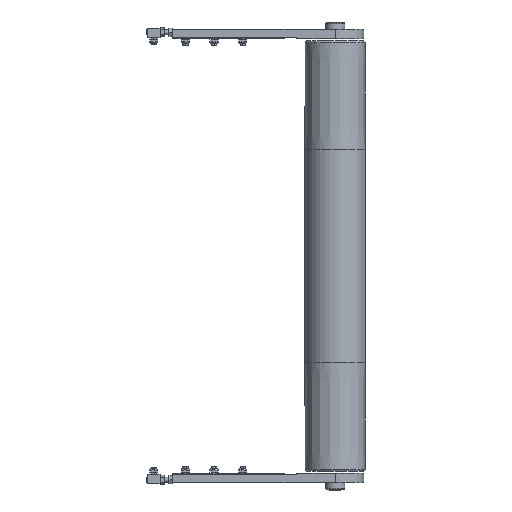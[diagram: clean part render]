
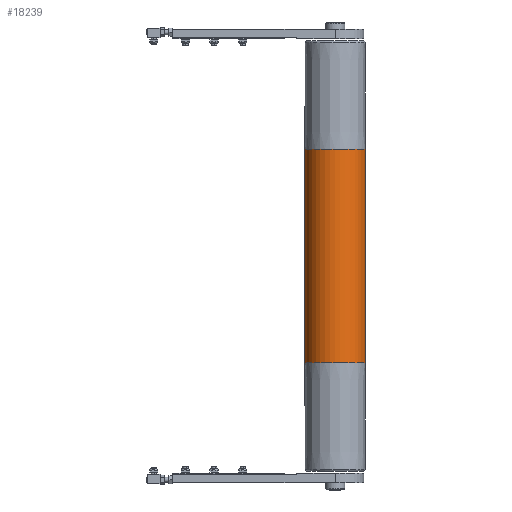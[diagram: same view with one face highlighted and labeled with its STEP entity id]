
A CAD part, front view. The second image highlights one B-rep face of the part: STEP entity #18239.
In plain terms, the highlighted cylindrical face has radius 47.5 mm (diameter 95 mm), a partial arc.
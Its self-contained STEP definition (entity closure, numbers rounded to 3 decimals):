
#3596 = DIRECTION ( 'NONE',  ( 1., 0., 0. ) ) ;
#3834 = CARTESIAN_POINT ( 'NONE',  ( -47.5, 0., 167.5 ) ) ;
#4224 = FACE_OUTER_BOUND ( 'NONE', #13120, .T. ) ;
#4438 = CARTESIAN_POINT ( 'NONE',  ( 0., 0., 167.5 ) ) ;
#5146 = DIRECTION ( 'NONE',  ( 0., 0., -1. ) ) ;
#5971 = EDGE_CURVE ( 'NONE', #16795, #19786, #11069, .T. ) ;
#6205 = DIRECTION ( 'NONE',  ( 1., 0., 0. ) ) ;
#6489 = AXIS2_PLACEMENT_3D ( 'NONE', #19792, #9107, #14401 ) ;
#7210 = EDGE_CURVE ( 'NONE', #11387, #16795, #16120, .T. ) ;
#7416 = CARTESIAN_POINT ( 'NONE',  ( 47.5, 0., -167.5 ) ) ;
#7438 = DIRECTION ( 'NONE',  ( 0., 0., -1. ) ) ;
#7811 = CYLINDRICAL_SURFACE ( 'NONE', #6489, 47.5 ) ;
#9107 = DIRECTION ( 'NONE',  ( 0., 0., -1. ) ) ;
#10043 = CARTESIAN_POINT ( 'NONE',  ( 47.5, 0., 167.5 ) ) ;
#11069 = LINE ( 'NONE', #18126, #15272 ) ;
#11240 = ORIENTED_EDGE ( 'NONE', *, *, #7210, .F. ) ;
#11311 = EDGE_CURVE ( 'NONE', #14920, #19786, #13703, .T. ) ;
#11387 = VERTEX_POINT ( 'NONE', #3834 ) ;
#11603 = AXIS2_PLACEMENT_3D ( 'NONE', #4438, #16906, #6205 ) ;
#11993 = ORIENTED_EDGE ( 'NONE', *, *, #14483, .T. ) ;
#12538 = AXIS2_PLACEMENT_3D ( 'NONE', #22493, #21326, #3596 ) ;
#12883 = ORIENTED_EDGE ( 'NONE', *, *, #11311, .T. ) ;
#13120 = EDGE_LOOP ( 'NONE', ( #14211, #11240, #11993, #12883 ) ) ;
#13703 = CIRCLE ( 'NONE', #12538, 47.5 ) ;
#14211 = ORIENTED_EDGE ( 'NONE', *, *, #5971, .F. ) ;
#14401 = DIRECTION ( 'NONE',  ( -1., 0., 0. ) ) ;
#14483 = EDGE_CURVE ( 'NONE', #11387, #14920, #19126, .T. ) ;
#14920 = VERTEX_POINT ( 'NONE', #18803 ) ;
#14938 = VECTOR ( 'NONE', #5146, 1000. ) ;
#15272 = VECTOR ( 'NONE', #7438, 1000. ) ;
#15807 = CARTESIAN_POINT ( 'NONE',  ( -47.5, 0., 335. ) ) ;
#16120 = CIRCLE ( 'NONE', #11603, 47.5 ) ;
#16795 = VERTEX_POINT ( 'NONE', #10043 ) ;
#16906 = DIRECTION ( 'NONE',  ( 0., 0., 1. ) ) ;
#18126 = CARTESIAN_POINT ( 'NONE',  ( 47.5, 0., 335. ) ) ;
#18239 = ADVANCED_FACE ( 'NONE', ( #4224 ), #7811, .T. ) ;
#18803 = CARTESIAN_POINT ( 'NONE',  ( -47.5, 0., -167.5 ) ) ;
#19126 = LINE ( 'NONE', #15807, #14938 ) ;
#19786 = VERTEX_POINT ( 'NONE', #7416 ) ;
#19792 = CARTESIAN_POINT ( 'NONE',  ( 0., 0., 335. ) ) ;
#21326 = DIRECTION ( 'NONE',  ( 0., 0., 1. ) ) ;
#22493 = CARTESIAN_POINT ( 'NONE',  ( 0., 0., -167.5 ) ) ;
